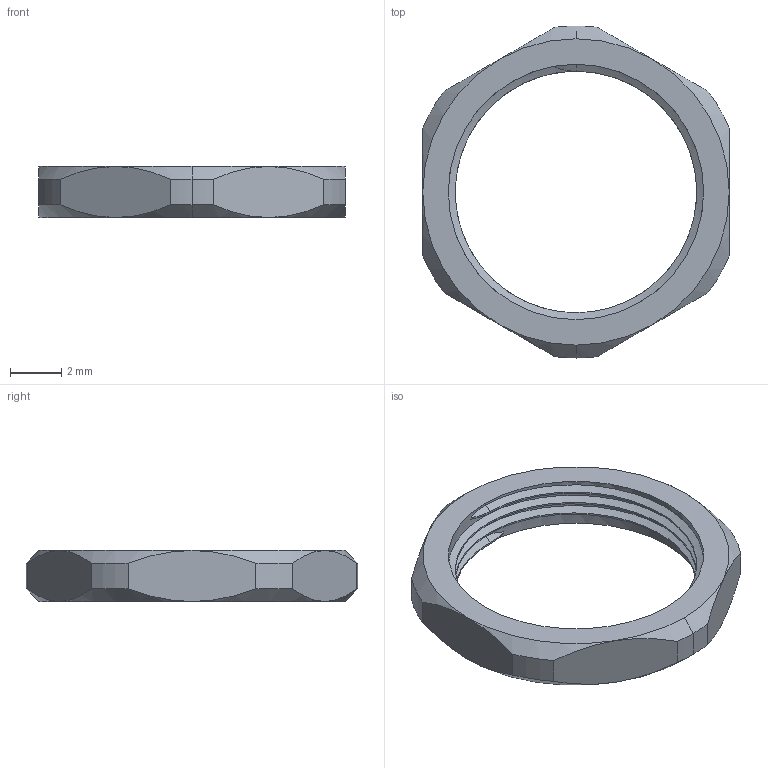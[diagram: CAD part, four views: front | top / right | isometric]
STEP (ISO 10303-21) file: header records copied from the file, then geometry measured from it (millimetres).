
FILE_DESCRIPTION(('CoCreate Modeling STEP Export'),'2;1');
FILE_NAME('H08-0032-CL903_LN-WS10M.stp','2011-09-29T14:11:44',(''),(''),'CoCreate Modeling STEP processor for AP214 (Solid Model)','CoCreate Modeling 17.00A 17-Jun-2010 (C) Parametric Technology GmbH','');
FILE_SCHEMA(('AUTOMOTIVE_DESIGN { 1 0 10303 214 1 1 1 1 }'));
Length unit declared in the file: millimetre
Products named in the file (2): LN-WS10M
Assembly tree (1 placements, depth 2):
  LN-WS10M
    LN-WS10M
Bounding box: 12 x 13 x 2 mm (x, y, z)
Volume: 89.9 mm3; surface area: 246.8 mm2
Topology: 1 solids, 1 shells, 49 faces, 121 edges, 74 vertices
Faces by surface type: cylinder 16, cone 16, bspline 9, plane 8
Entity records: 3256 total; most frequent: CARTESIAN_POINT 2359, ORIENTED_EDGE 242, EDGE_CURVE 121, DIRECTION 92, VERTEX_POINT 74, EDGE_LOOP 51, FACE_OUTER_BOUND 49, ADVANCED_FACE 49
